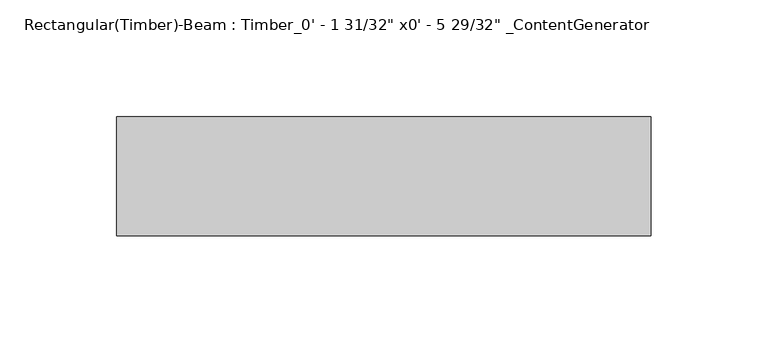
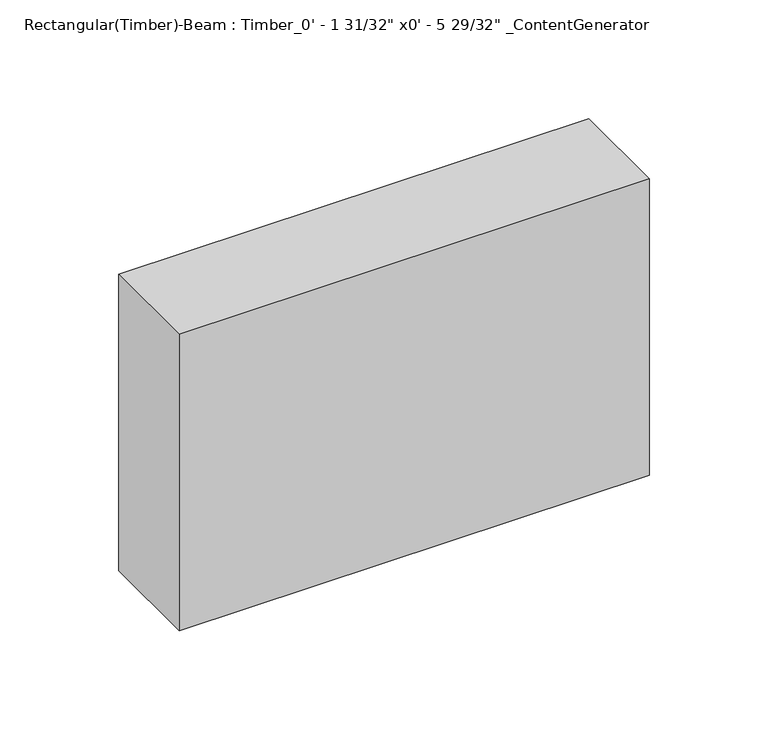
"""IFC4 building model written with IfcOpenShell, lengths in millimetres: beam geometry."""

from ifc_helpers import new_model, si_unit, frame, origin, place, context, project, spatial, polyline, outline, extrude, source, transform, mapped, element, save


def beam_e2420293(model_context):
    return source(origin(), model_context, "Body", "SweptSolid", [
        extrude(outline(polyline([(101.5666016, 25.4), (101.5666016, -25.4), (-126.966601, -25.4), (-126.966601, 25.4), (101.5666016, 25.4)])), frame((0.0, 0.0, -76.2), z_axis=(0.0, 0.0, 1.0), x_axis=(1.0, 0.0, 0.0)), (0.0, 0.0, 1.0), 152.4),
    ])


if __name__ == "__main__":
    model = new_model("IFC4")
    model_context = context("Model", 3, world=origin())
    ifc_project = project(units=[si_unit("LENGTHUNIT", "METRE", prefix="MILLI")], contexts=[model_context])
    site = spatial("IfcSite", under=ifc_project)
    building = spatial("IfcBuilding", under=site)
    placement = place(None, origin())
    beam_shape = beam_e2420293(model_context)
    element("IfcBeam", 1, ObjectType="Rectangular(Timber)-Beam : Timber_0' - 1 31/32\" x0' - 5 29/32\" _ContentGenerator", at=placement, inside=building, context=model_context, shape_type="MappedRepresentation", body=[
        mapped(beam_shape, transform((0.0, 0.0, 0.0), x_axis=(1.0, 0.0, 0.0), y_axis=(0.0, 1.0, 0.0), z_axis=(0.0, 0.0, 1.0))),
    ])
    save(model, "model.ifc")
